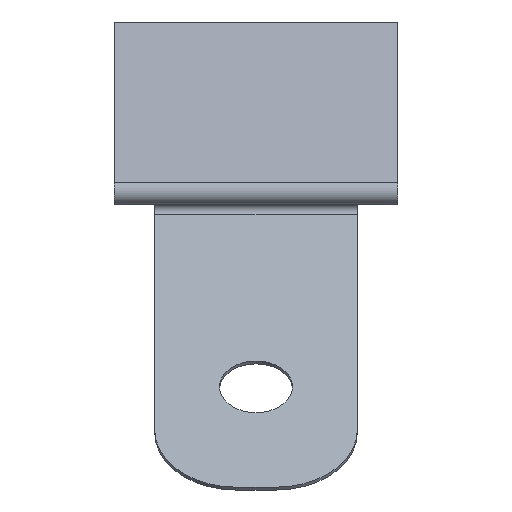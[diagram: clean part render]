
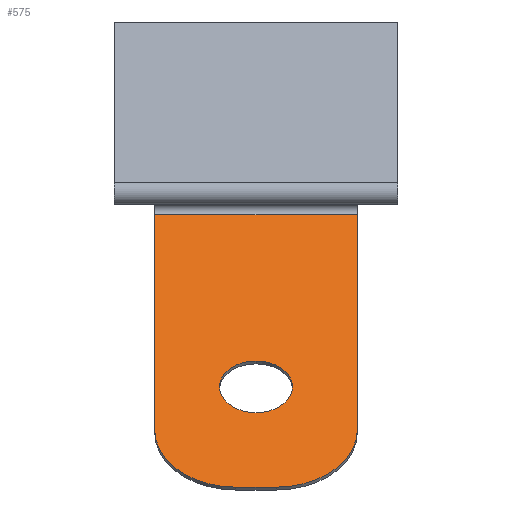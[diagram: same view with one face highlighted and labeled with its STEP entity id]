
A CAD part, front view. The second image highlights one B-rep face of the part: STEP entity #575.
In plain terms, the highlighted planar face has unit normal (0, -0.707, 0.707).
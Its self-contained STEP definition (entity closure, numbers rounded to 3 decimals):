
#2 = VERTEX_POINT ( 'NONE', #108 ) ;
#11 = DIRECTION ( 'NONE',  ( 0., -0.707, -0.707 ) ) ;
#14 = CARTESIAN_POINT ( 'NONE',  ( -2.5, -1.384, -0.356 ) ) ;
#29 = FACE_OUTER_BOUND ( 'NONE', #398, .T. ) ;
#30 = CARTESIAN_POINT ( 'NONE',  ( 0.5, -6.687, -5.659 ) ) ;
#47 = AXIS2_PLACEMENT_3D ( 'NONE', #437, #404, #402 ) ;
#50 = FACE_BOUND ( 'NONE', #113, .T. ) ;
#62 = VERTEX_POINT ( 'NONE', #98 ) ;
#63 = CIRCLE ( 'NONE', #70, 0.9 ) ;
#70 = AXIS2_PLACEMENT_3D ( 'NONE', #514, #511, #503 ) ;
#76 = CIRCLE ( 'NONE', #609, 0.9 ) ;
#78 = DIRECTION ( 'NONE',  ( 1., 0., 0. ) ) ;
#96 = AXIS2_PLACEMENT_3D ( 'NONE', #647, #646, #643 ) ;
#98 = CARTESIAN_POINT ( 'NONE',  ( 2.5, -6.687, -5.659 ) ) ;
#108 = CARTESIAN_POINT ( 'NONE',  ( 2.5, -1.384, -0.356 ) ) ;
#112 = CIRCLE ( 'NONE', #96, 2. ) ;
#113 = EDGE_LOOP ( 'NONE', ( #328, #177 ) ) ;
#115 = CARTESIAN_POINT ( 'NONE',  ( 0., -4.99, -3.962 ) ) ;
#116 = VECTOR ( 'NONE', #703, 1000. ) ;
#120 = LINE ( 'NONE', #713, #116 ) ;
#124 = AXIS2_PLACEMENT_3D ( 'NONE', #30, #301, #11 ) ;
#137 = VECTOR ( 'NONE', #750, 1000. ) ;
#138 = LINE ( 'NONE', #737, #172 ) ;
#149 = LINE ( 'NONE', #744, #137 ) ;
#151 = VECTOR ( 'NONE', #78, 1000. ) ;
#158 = LINE ( 'NONE', #169, #151 ) ;
#160 = CIRCLE ( 'NONE', #124, 2. ) ;
#169 = CARTESIAN_POINT ( 'NONE',  ( -3.5, -8.102, -7.074 ) ) ;
#172 = VECTOR ( 'NONE', #730, 1000. ) ;
#177 = ORIENTED_EDGE ( 'NONE', *, *, #552, .F. ) ;
#211 = ORIENTED_EDGE ( 'NONE', *, *, #401, .T. ) ;
#248 = ORIENTED_EDGE ( 'NONE', *, *, #476, .T. ) ;
#250 = VERTEX_POINT ( 'NONE', #406 ) ;
#258 = ORIENTED_EDGE ( 'NONE', *, *, #448, .F. ) ;
#292 = ORIENTED_EDGE ( 'NONE', *, *, #417, .T. ) ;
#293 = ORIENTED_EDGE ( 'NONE', *, *, #403, .T. ) ;
#301 = DIRECTION ( 'NONE',  ( 0., -0.707, 0.707 ) ) ;
#307 = ORIENTED_EDGE ( 'NONE', *, *, #431, .T. ) ;
#328 = ORIENTED_EDGE ( 'NONE', *, *, #529, .F. ) ;
#329 = CARTESIAN_POINT ( 'NONE',  ( -0.5, -8.102, -7.074 ) ) ;
#398 = EDGE_LOOP ( 'NONE', ( #307, #248, #211, #293, #292, #258 ) ) ;
#401 = EDGE_CURVE ( 'NONE', #594, #471, #158, .T. ) ;
#402 = DIRECTION ( 'NONE',  ( 0., -0.707, -0.707 ) ) ;
#403 = EDGE_CURVE ( 'NONE', #471, #62, #160, .T. ) ;
#404 = DIRECTION ( 'NONE',  ( 0., -0.707, 0.707 ) ) ;
#406 = CARTESIAN_POINT ( 'NONE',  ( 0., -6.263, -5.235 ) ) ;
#417 = EDGE_CURVE ( 'NONE', #62, #2, #149, .T. ) ;
#431 = EDGE_CURVE ( 'NONE', #692, #544, #138, .T. ) ;
#437 = CARTESIAN_POINT ( 'NONE',  ( -3.5, -1.384, -0.356 ) ) ;
#441 = PLANE ( 'NONE',  #47 ) ;
#448 = EDGE_CURVE ( 'NONE', #692, #2, #120, .T. ) ;
#471 = VERTEX_POINT ( 'NONE', #690 ) ;
#476 = EDGE_CURVE ( 'NONE', #544, #594, #112, .T. ) ;
#503 = DIRECTION ( 'NONE',  ( 0., -0.707, -0.707 ) ) ;
#511 = DIRECTION ( 'NONE',  ( 0., -0.707, 0.707 ) ) ;
#514 = CARTESIAN_POINT ( 'NONE',  ( 0., -5.627, -4.599 ) ) ;
#528 = CARTESIAN_POINT ( 'NONE',  ( -2.5, -6.687, -5.659 ) ) ;
#529 = EDGE_CURVE ( 'NONE', #250, #632, #76, .T. ) ;
#536 = DIRECTION ( 'NONE',  ( 0., -0.707, -0.707 ) ) ;
#541 = DIRECTION ( 'NONE',  ( 0., -0.707, 0.707 ) ) ;
#544 = VERTEX_POINT ( 'NONE', #528 ) ;
#551 = CARTESIAN_POINT ( 'NONE',  ( 0., -5.627, -4.599 ) ) ;
#552 = EDGE_CURVE ( 'NONE', #632, #250, #63, .T. ) ;
#575 = ADVANCED_FACE ( 'NONE', ( #50, #29 ), #441, .T. ) ;
#594 = VERTEX_POINT ( 'NONE', #329 ) ;
#609 = AXIS2_PLACEMENT_3D ( 'NONE', #551, #541, #536 ) ;
#632 = VERTEX_POINT ( 'NONE', #115 ) ;
#643 = DIRECTION ( 'NONE',  ( 0., -0.707, -0.707 ) ) ;
#646 = DIRECTION ( 'NONE',  ( 0., -0.707, 0.707 ) ) ;
#647 = CARTESIAN_POINT ( 'NONE',  ( -0.5, -6.687, -5.659 ) ) ;
#690 = CARTESIAN_POINT ( 'NONE',  ( 0.5, -8.102, -7.074 ) ) ;
#692 = VERTEX_POINT ( 'NONE', #14 ) ;
#703 = DIRECTION ( 'NONE',  ( 1., 0., 0. ) ) ;
#713 = CARTESIAN_POINT ( 'NONE',  ( -3.5, -1.384, -0.356 ) ) ;
#730 = DIRECTION ( 'NONE',  ( 0., -0.707, -0.707 ) ) ;
#737 = CARTESIAN_POINT ( 'NONE',  ( -2.5, -1.384, -0.356 ) ) ;
#744 = CARTESIAN_POINT ( 'NONE',  ( 2.5, -1.384, -0.356 ) ) ;
#750 = DIRECTION ( 'NONE',  ( 0., 0.707, 0.707 ) ) ;
